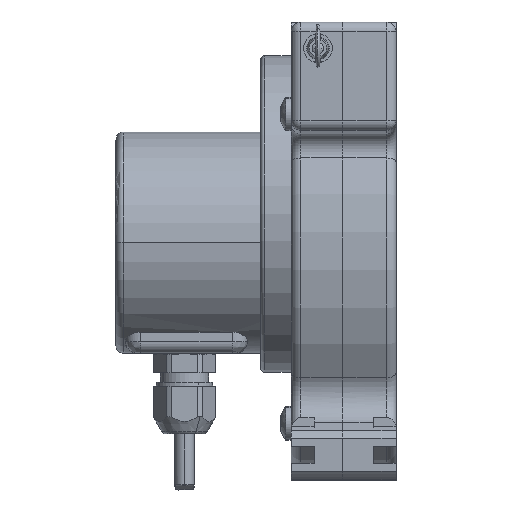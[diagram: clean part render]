
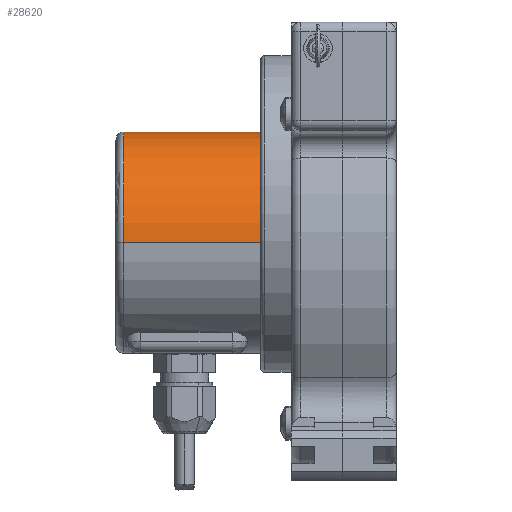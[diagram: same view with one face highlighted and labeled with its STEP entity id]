
A CAD part, top view. The second image highlights one B-rep face of the part: STEP entity #28620.
In plain terms, the highlighted cylindrical face has radius 29 mm (diameter 58 mm), a partial arc.
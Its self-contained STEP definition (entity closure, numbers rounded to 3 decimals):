
#26803=DIRECTION('',(0.,0.,1.));
#26804=VECTOR('',#26803,42.25);
#26805=CARTESIAN_POINT('',(-29.,0.,2.));
#26806=LINE('',#26805,#26804);
#27424=CARTESIAN_POINT('',(0.,0.,44.25));
#27425=DIRECTION('',(0.,0.,1.));
#27426=DIRECTION('',(1.,0.,0.));
#27427=AXIS2_PLACEMENT_3D('',#27424,#27425,#27426);
#27444=CARTESIAN_POINT('',(0.,0.,2.));
#27445=DIRECTION('',(0.,0.,-1.));
#27446=DIRECTION('',(-1.,0.,0.));
#27447=AXIS2_PLACEMENT_3D('',#27444,#27445,#27446);
#27449=DIRECTION('',(0.,0.,1.));
#27450=VECTOR('',#27449,42.25);
#27451=CARTESIAN_POINT('',(29.,0.,2.));
#27452=LINE('',#27451,#27450);
#27505=CARTESIAN_POINT('',(29.,0.,44.25));
#27506=CARTESIAN_POINT('',(-29.,0.,44.25));
#27507=VERTEX_POINT('',#27505);
#27508=VERTEX_POINT('',#27506);
#27605=CARTESIAN_POINT('',(-29.,0.,2.));
#27606=CARTESIAN_POINT('',(29.,0.,2.));
#27607=VERTEX_POINT('',#27605);
#27608=VERTEX_POINT('',#27606);
#28609=CARTESIAN_POINT('',(0.,0.,0.));
#28610=DIRECTION('',(0.,0.,1.));
#28611=DIRECTION('',(1.,0.,0.));
#28612=AXIS2_PLACEMENT_3D('',#28609,#28610,#28611);
#28613=CYLINDRICAL_SURFACE('',#28612,29.);
#28614=ORIENTED_EDGE('',*,*,#27705,.T.);
#28615=ORIENTED_EDGE('',*,*,#27735,.T.);
#28616=ORIENTED_EDGE('',*,*,#28599,.T.);
#28617=ORIENTED_EDGE('',*,*,#27731,.F.);
#28618=EDGE_LOOP('',(#28614,#28615,#28616,#28617));
#28619=FACE_OUTER_BOUND('',#28618,.F.);
#28620=ADVANCED_FACE('',(#28619),#28613,.T.);
#27428=CIRCLE('',#27427,29.);
#27448=CIRCLE('',#27447,29.);
#27705=EDGE_CURVE('',#27607,#27608,#27448,.T.);
#27731=EDGE_CURVE('',#27607,#27508,#26806,.T.);
#27735=EDGE_CURVE('',#27608,#27507,#27452,.T.);
#28599=EDGE_CURVE('',#27507,#27508,#27428,.T.);
